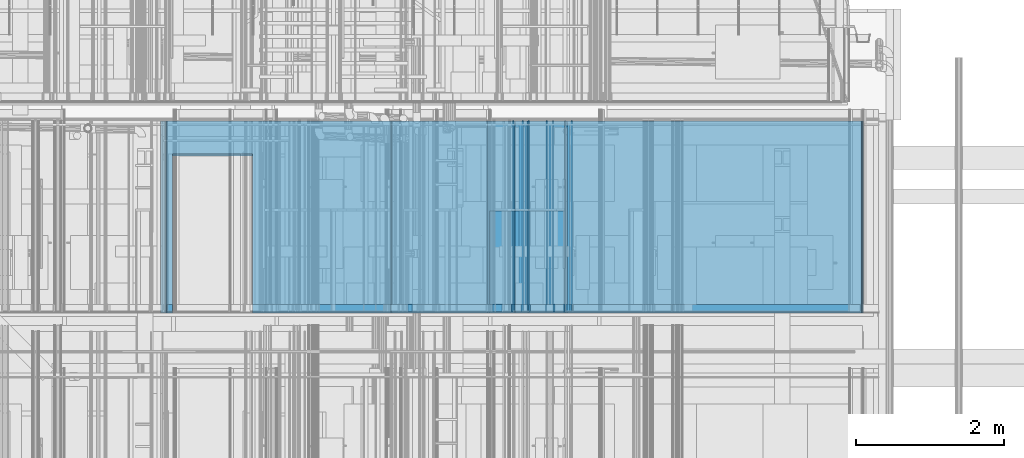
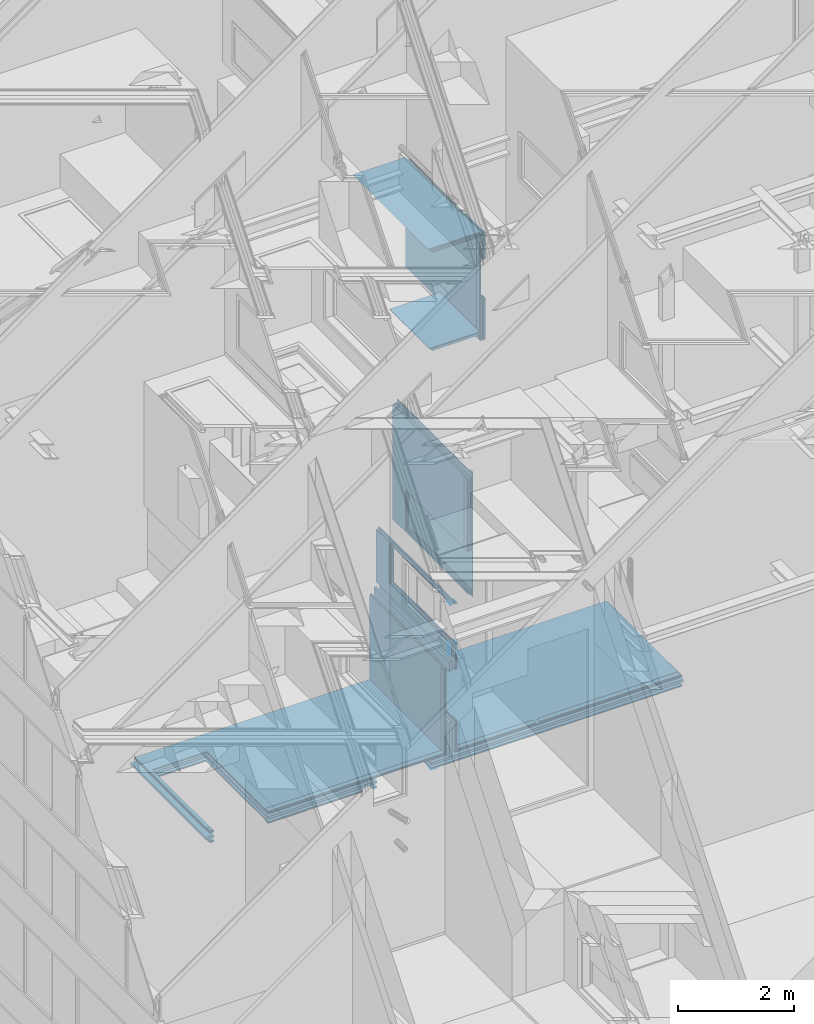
# One storey, part 122 of 583: 44 building element parts, 7 openings, 7 elements without a shape of their own.
"""IFC2X3 building model written with IfcOpenShell, lengths in metres."""

from ifc_helpers import new_model, entity, si_unit, converted_unit, derived_unit, money_unit, direction, frame, frame_2d, origin_with_axes, place, context, subcontext, project, spatial, polyline, rectangle, outline, extrude, material, type_object, element, aggregate, save


model = new_model("IFC2X3")

# Units and contexts
model_context = context("Model", 3, precision=1e-05, world=origin_with_axes(), true_north=direction((0.0, 1.0)))
body_context = subcontext(model_context, "Body", "Model", "MODEL_VIEW", scale=1.0)
ifc_project = project(units=[si_unit("LENGTHUNIT", "METRE"), si_unit("AREAUNIT", "SQUARE_METRE"), si_unit("VOLUMEUNIT", "CUBIC_METRE"), si_unit("ABSORBEDDOSEUNIT", "GRAY"), si_unit("AMOUNTOFSUBSTANCEUNIT", "MOLE"), si_unit("DOSEEQUIVALENTUNIT", "SIEVERT"), si_unit("ELECTRICCAPACITANCEUNIT", "FARAD"), si_unit("ELECTRICCHARGEUNIT", "COULOMB"), si_unit("ELECTRICCONDUCTANCEUNIT", "SIEMENS"), si_unit("ELECTRICCURRENTUNIT", "AMPERE"), si_unit("ELECTRICRESISTANCEUNIT", "OHM"), si_unit("ELECTRICVOLTAGEUNIT", "VOLT"), si_unit("ENERGYUNIT", "JOULE"), si_unit("FORCEUNIT", "NEWTON"), si_unit("FREQUENCYUNIT", "HERTZ"), si_unit("ILLUMINANCEUNIT", "LUX"), si_unit("INDUCTANCEUNIT", "HENRY"), si_unit("LUMINOUSFLUXUNIT", "LUMEN"), si_unit("LUMINOUSINTENSITYUNIT", "CANDELA"), si_unit("MAGNETICFLUXDENSITYUNIT", "TESLA"), si_unit("MAGNETICFLUXUNIT", "WEBER"), si_unit("MASSUNIT", "GRAM"), converted_unit("PLANEANGLEUNIT", "degree", entity("IfcReal", 0.0174532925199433), si_unit("PLANEANGLEUNIT", "RADIAN"), dimensions=[0, 0, 0, 0, 0, 0, 0]), si_unit("POWERUNIT", "WATT"), si_unit("PRESSUREUNIT", "PASCAL"), si_unit("RADIOACTIVITYUNIT", "BECQUEREL"), si_unit("SOLIDANGLEUNIT", "STERADIAN"), si_unit("THERMODYNAMICTEMPERATUREUNIT", "KELVIN"), si_unit("TIMEUNIT", "SECOND"), derived_unit("ACCELERATIONUNIT", [(si_unit("LENGTHUNIT", "METRE"), 1), (si_unit("TIMEUNIT", "SECOND"), -2)]), derived_unit("ANGULARVELOCITYUNIT", [(converted_unit("PLANEANGLEUNIT", "degree", entity("IfcReal", 0.0174532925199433), si_unit("PLANEANGLEUNIT", "RADIAN"), dimensions=[0, 0, 0, 0, 0, 0, 0]), 1), (si_unit("TIMEUNIT", "SECOND"), -1)]), derived_unit("CURVATUREUNIT", [(converted_unit("PLANEANGLEUNIT", "degree", entity("IfcReal", 0.0174532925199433), si_unit("PLANEANGLEUNIT", "RADIAN"), dimensions=[0, 0, 0, 0, 0, 0, 0]), 1), (si_unit("LENGTHUNIT", "METRE"), -1)]), derived_unit("DYNAMICVISCOSITYUNIT", [(si_unit("PRESSUREUNIT", "PASCAL"), 1), (si_unit("TIMEUNIT", "SECOND"), 1)]), derived_unit("HEATFLUXDENSITYUNIT", [(si_unit("POWERUNIT", "WATT"), 1), (si_unit("LENGTHUNIT", "METRE"), -2)]), derived_unit("HEATINGVALUEUNIT", [(si_unit("ENERGYUNIT", "JOULE"), 1), (si_unit("MASSUNIT", "GRAM"), -1)]), derived_unit("INTEGERCOUNTRATEUNIT", [(si_unit("TIMEUNIT", "SECOND"), -1)]), derived_unit("IONCONCENTRATIONUNIT", [(si_unit("MASSUNIT", "GRAM"), 1), (si_unit("VOLUMEUNIT", "CUBIC_METRE"), -1)]), derived_unit("ISOTHERMALMOISTURECAPACITYUNIT", [(si_unit("VOLUMEUNIT", "CUBIC_METRE"), 1), (si_unit("MASSUNIT", "GRAM"), -1)]), derived_unit("KINEMATICVISCOSITYUNIT", [(si_unit("AREAUNIT", "SQUARE_METRE"), 1), (si_unit("TIMEUNIT", "SECOND"), -1)]), derived_unit("LINEARFORCEUNIT", [(si_unit("FORCEUNIT", "NEWTON"), 1), (si_unit("LENGTHUNIT", "METRE"), -1)]), derived_unit("LINEARMOMENTUNIT", [(si_unit("FORCEUNIT", "NEWTON"), 1), (si_unit("LENGTHUNIT", "METRE"), -1)]), derived_unit("LINEARSTIFFNESSUNIT", [(si_unit("FORCEUNIT", "NEWTON"), 1), (si_unit("LENGTHUNIT", "METRE"), -1)]), derived_unit("LINEARVELOCITYUNIT", [(si_unit("LENGTHUNIT", "METRE"), 1), (si_unit("TIMEUNIT", "SECOND"), -1)]), derived_unit("LUMINOUSINTENSITYDISTRIBUTIONUNIT", [(si_unit("LUMINOUSINTENSITYUNIT", "CANDELA"), 1), (si_unit("LUMINOUSFLUXUNIT", "LUMEN"), -1)]), derived_unit("MASSDENSITYUNIT", [(si_unit("MASSUNIT", "GRAM"), 1), (si_unit("VOLUMEUNIT", "CUBIC_METRE"), -1)]), derived_unit("MASSFLOWRATEUNIT", [(si_unit("MASSUNIT", "GRAM"), 1), (si_unit("TIMEUNIT", "SECOND"), -1)]), derived_unit("MASSPERLENGTHUNIT", [(si_unit("MASSUNIT", "GRAM"), 1), (si_unit("LENGTHUNIT", "METRE"), -1)]), derived_unit("MODULUSOFELASTICITYUNIT", [(si_unit("FORCEUNIT", "NEWTON"), 1), (si_unit("AREAUNIT", "SQUARE_METRE"), -1)]), derived_unit("MODULUSOFLINEARSUBGRADEREACTIONUNIT", [(si_unit("FORCEUNIT", "NEWTON"), 1), (si_unit("LENGTHUNIT", "METRE"), -2)]), derived_unit("MODULUSOFROTATIONALSUBGRADEREACTIONUNIT", [(si_unit("FORCEUNIT", "NEWTON"), 1), (si_unit("LENGTHUNIT", "METRE"), 1)]), derived_unit("MODULUSOFSUBGRADEREACTIONUNIT", [(si_unit("FORCEUNIT", "NEWTON"), 1), (si_unit("VOLUMEUNIT", "CUBIC_METRE"), -1)]), derived_unit("MOISTUREDIFFUSIVITYUNIT", [(si_unit("VOLUMEUNIT", "CUBIC_METRE"), 1), (si_unit("TIMEUNIT", "SECOND"), -1)]), derived_unit("MOLECULARWEIGHTUNIT", [(si_unit("MASSUNIT", "GRAM"), 1), (si_unit("AMOUNTOFSUBSTANCEUNIT", "MOLE"), -1)]), derived_unit("PLANARFORCEUNIT", [(si_unit("FORCEUNIT", "NEWTON"), 1), (si_unit("LENGTHUNIT", "METRE"), -2)]), derived_unit("ROTATIONALFREQUENCYUNIT", [(si_unit("TIMEUNIT", "SECOND"), -1)]), derived_unit("ROTATIONALMASSUNIT", [(si_unit("MASSUNIT", "GRAM"), 1), (si_unit("LENGTHUNIT", "METRE"), 2)]), derived_unit("ROTATIONALSTIFFNESSUNIT", [(si_unit("FORCEUNIT", "NEWTON"), 1), (si_unit("LENGTHUNIT", "METRE"), 1), (converted_unit("PLANEANGLEUNIT", "degree", entity("IfcReal", 0.0174532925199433), si_unit("PLANEANGLEUNIT", "RADIAN"), dimensions=[0, 0, 0, 0, 0, 0, 0]), -1)]), derived_unit("SECTIONAREAINTEGRALUNIT", [(si_unit("LENGTHUNIT", "METRE"), 5)]), derived_unit("SECTIONMODULUSUNIT", [(si_unit("LENGTHUNIT", "METRE"), 3)]), derived_unit("SHEARMODULUSUNIT", [(si_unit("FORCEUNIT", "NEWTON"), 1), (si_unit("AREAUNIT", "SQUARE_METRE"), -1)]), derived_unit("SOUNDPOWERUNIT", [(si_unit("ENERGYUNIT", "JOULE"), 1), (si_unit("TIMEUNIT", "SECOND"), -1)]), derived_unit("SPECIFICHEATCAPACITYUNIT", [(si_unit("FORCEUNIT", "NEWTON"), 1), (si_unit("MASSUNIT", "GRAM"), -1), (si_unit("THERMODYNAMICTEMPERATUREUNIT", "KELVIN"), -1)]), derived_unit("TEMPERATUREGRADIENTUNIT", [(si_unit("THERMODYNAMICTEMPERATUREUNIT", "KELVIN"), 1), (si_unit("LENGTHUNIT", "METRE"), -1)]), derived_unit("THERMALADMITTANCEUNIT", [(si_unit("POWERUNIT", "WATT"), 1), (si_unit("AREAUNIT", "SQUARE_METRE"), -1), (si_unit("THERMODYNAMICTEMPERATUREUNIT", "KELVIN"), -1)]), derived_unit("THERMALCONDUCTANCEUNIT", [(si_unit("POWERUNIT", "WATT"), 1), (si_unit("LENGTHUNIT", "METRE"), -1), (si_unit("THERMODYNAMICTEMPERATUREUNIT", "KELVIN"), -1)]), derived_unit("THERMALEXPANSIONCOEFFICIENTUNIT", [(si_unit("THERMODYNAMICTEMPERATUREUNIT", "KELVIN"), -1)]), derived_unit("THERMALRESISTANCEUNIT", [(si_unit("AREAUNIT", "SQUARE_METRE"), 1), (si_unit("POWERUNIT", "WATT"), -1)]), derived_unit("THERMALTRANSMITTANCEUNIT", [(si_unit("POWERUNIT", "WATT"), 1), (si_unit("AREAUNIT", "SQUARE_METRE"), -1), (si_unit("THERMODYNAMICTEMPERATUREUNIT", "KELVIN"), -1)]), derived_unit("TORQUEUNIT", [(si_unit("FORCEUNIT", "NEWTON"), 1), (si_unit("LENGTHUNIT", "METRE"), 1)]), derived_unit("VAPORPERMEABILITYUNIT", [(si_unit("MASSUNIT", "GRAM"), 1), (si_unit("TIMEUNIT", "SECOND"), -1)]), derived_unit("VOLUMETRICFLOWRATEUNIT", [(si_unit("VOLUMEUNIT", "CUBIC_METRE"), 1), (si_unit("TIMEUNIT", "SECOND"), -1)]), derived_unit("WARPINGCONSTANTUNIT", [(si_unit("LENGTHUNIT", "METRE"), 6)]), derived_unit("WARPINGMOMENTUNIT", [(si_unit("FORCEUNIT", "NEWTON"), 1), (si_unit("LENGTHUNIT", "METRE"), 2)]), money_unit("GBP")], contexts=[model_context])

# Site, building, storey
site_placement = place(None, origin_with_axes())
site = spatial("IfcSite", under=ifc_project, at=site_placement, Name="Site", CompositionType="ELEMENT")
building_placement = place(site_placement, origin_with_axes())
building = spatial("IfcBuilding", under=site, at=building_placement, Name="Building01", CompositionType="ELEMENT")
storey_placement = place(building_placement, frame((0.0, 0.0, 20.78), z_axis=(0.0, 0.0, 1.0), x_axis=(1.0, 0.0, 0.0)))
storey = spatial("IfcBuildingStorey", under=building, at=storey_placement, Name="RL", CompositionType="ELEMENT", Elevation=20.78)

# Wall, opening, building element parts
wall_type_1 = type_object("IfcWallType", Name="SHE_A-Walls_Type05a_Partition_95mm_tall", PredefinedType="NOTDEFINED")
wall_1_placement = place(storey_placement, frame((10.355, 12.13, -10.326129), z_axis=(0.0, 1.0, 0.0), x_axis=(0.0, 0.0, 1.0)))
wall_1 = element("IfcWall", 1, at=wall_1_placement, inside=storey, type_object=wall_type_1, Name="5A", ObjectType="SHE_A-Walls_Type05a_Partition_95mm_tall")
opening_1_placement = place(wall_1_placement, frame((0.086065, -0.035, 0.0), z_axis=(0.0, 0.0, 1.0), x_axis=(1.0, 0.0, 0.0)))
element("IfcOpeningElement", 2, at=opening_1_placement, cuts=wall_1, Name="Opening", ObjectType="Opening", context=body_context, shape_type="SweptSolid", body=[
    extrude(rectangle(XDim=2.142, YDim=0.834, at=frame_2d((0.417, 1.071), x_axis=(0.0, -1.0))), frame((0.0, 0.09, 0.0), z_axis=(0.0, -1.0, 0.0), x_axis=(1.0, 0.0, 0.0)), (0.0, 0.0, 1.0), 0.18),
])
ifc_material_1 = material(Name="A_BSUK_Insulation")
placement_1 = place(wall_1_placement, origin_with_axes())
building_element_part_1 = element("IfcBuildingElementPart", 3, at=placement_1, material=ifc_material_1, Name="1", context=body_context, shape_type="SweptSolid", body=[
    extrude(rectangle(XDim=2.474714, YDim=0.025, at=frame_2d((1.237357, 0.0125), x_axis=(-1.0, 0.0))), origin_with_axes(), (0.0, 0.0, 1.0), 2.59),
])
ifc_material_2 = material(Name="A_BSUK_Walls_Timber")
building_element_part_2 = element("IfcBuildingElementPart", 4, at=placement_1, material=ifc_material_2, Name="2", context=body_context, shape_type="SweptSolid", body=[
    extrude(outline(polyline([(2.549714, 0.075), (-0.075, 0.075), (-0.06, 0.06), (2.534714, 0.06), (2.549714, 0.075)])), frame((0.0, 0.0, 0.015), z_axis=(0.0, 0.0, 1.0), x_axis=(1.0, 0.0, 0.0)), (0.0, 0.0, 1.0), 0.1),
])
building_element_part_3 = element("IfcBuildingElementPart", 5, at=placement_1, material=ifc_material_2, Name="3", context=body_context, shape_type="SweptSolid", body=[
    extrude(outline(polyline([(2.439714, -0.035), (0.035, -0.035), (0.05, -0.05), (2.424714, -0.05), (2.439714, -0.035)])), frame((0.0, 0.0, 0.015), z_axis=(0.0, 0.0, 1.0), x_axis=(1.0, 0.0, 0.0)), (0.0, 0.0, 1.0), 0.1),
])
ifc_material_3 = material(Name="A_BSUK_WallInternal_Finishes_Plasterboard")
building_element_part_4 = element("IfcBuildingElementPart", 6, at=placement_1, material=ifc_material_3, Name="4", context=body_context, shape_type="SweptSolid", body=[
    extrude(outline(polyline([(2.534714, 0.06), (-0.06, 0.06), (-0.048, 0.048), (2.522714, 0.048), (2.534714, 0.06)])), origin_with_axes(), (0.0, 0.0, 1.0), 2.59),
])
building_element_part_5 = element("IfcBuildingElementPart", 7, at=placement_1, material=ifc_material_3, Name="5", context=body_context, shape_type="SweptSolid", body=[
    extrude(outline(polyline([(2.451714, -0.023), (0.023, -0.023), (0.035, -0.035), (2.439714, -0.035), (2.451714, -0.023)])), origin_with_axes(), (0.0, 0.0, 1.0), 2.59),
])
aggregate(wall_1, [building_element_part_1, building_element_part_2, building_element_part_3, building_element_part_4, building_element_part_5])

# Wall, openings, building element parts
wall_type_2 = type_object("IfcWallType", Name="SHE_A-Walls_Type01c_Partywall_225mm_twin_tall", PredefinedType="NOTDEFINED")
wall_2_placement = place(storey_placement, frame((5.117, 12.13, -13.578331), z_axis=(0.0, 1.0, 0.0), x_axis=(1.0, 0.0, 0.0)))
wall_2 = element("IfcWall", 8, at=wall_2_placement, inside=storey, type_object=wall_type_2, Name="1C", ObjectType="SHE_A-Walls_Type01c_Partywall_225mm_twin_tall")
opening_2_placement = place(wall_2_placement, frame((0.157475, -0.225, -0.03), z_axis=(0.0, 0.0, 1.0), x_axis=(1.0, 0.0, 0.0)))
element("IfcOpeningElement", 9, at=opening_2_placement, cuts=wall_2, Name="Opening", ObjectType="Opening", context=body_context, shape_type="SweptSolid", body=[
    extrude(rectangle(XDim=1.084, YDim=2.142, at=frame_2d((-0.542, 1.071), x_axis=(-1.0, 0.0))), frame((0.0, -0.4125, 0.0), z_axis=(0.0, 1.0, 0.0), x_axis=(-1.0, 0.0, 0.0)), (0.0, 0.0, 1.0), 0.825),
])
opening_3_placement = place(wall_2_placement, frame((3.391704, 0.137, 0.0), z_axis=(0.0, 0.0, 1.0), x_axis=(1.0, 0.0, 0.0)))
element("IfcOpeningElement", 10, at=opening_3_placement, cuts=wall_2, Name="Opening", ObjectType="Opening", context=body_context, shape_type="SweptSolid", body=[
    extrude(rectangle(XDim=2.142, YDim=1.084, at=frame_2d((-0.542, 1.071), x_axis=(0.0, -1.0))), frame((0.0, -0.2055, 0.0), z_axis=(0.0, 1.0, 0.0), x_axis=(-1.0, 0.0, 0.0)), (0.0, 0.0, 1.0), 0.411),
])
opening_4_placement = place(wall_2_placement, frame((0.157475, 0.137, 0.0), z_axis=(0.0, 0.0, 1.0), x_axis=(1.0, 0.0, 0.0)))
element("IfcOpeningElement", 11, at=opening_4_placement, cuts=wall_2, Name="Opening", ObjectType="Opening", context=body_context, shape_type="SweptSolid", body=[
    extrude(rectangle(XDim=2.142, YDim=1.084, at=frame_2d((-0.542, 1.071), x_axis=(0.0, -1.0))), frame((0.0, -0.2055, 0.0), z_axis=(0.0, 1.0, 0.0), x_axis=(-1.0, 0.0, 0.0)), (0.0, 0.0, 1.0), 0.411),
])
placement_2 = place(wall_2_placement, origin_with_axes())
building_element_part_6 = element("IfcBuildingElementPart", 12, at=placement_2, material=ifc_material_1, Name="1", context=body_context, shape_type="SweptSolid", body=[
    extrude(rectangle(XDim=9.477, YDim=0.05, at=frame_2d((4.7385, 0.025), x_axis=(-1.0, 0.0))), origin_with_axes(), (0.0, 0.0, 1.0), 2.59),
])
building_element_part_7 = element("IfcBuildingElementPart", 13, at=placement_2, material=ifc_material_2, Name="2", context=body_context, shape_type="SweptSolid", body=[
    extrude(rectangle(XDim=1.906475, YDim=0.015, at=frame_2d((1.041238, 0.1445), x_axis=(-1.0, 0.0))), frame((0.0, 0.0, 0.015), z_axis=(0.0, 0.0, 1.0), x_axis=(1.0, 0.0, 0.0)), (0.0, 0.0, 1.0), 0.1),
])
building_element_part_8 = element("IfcBuildingElementPart", 14, at=placement_2, material=ifc_material_3, Name="3", context=body_context, shape_type="SweptSolid", body=[
    extrude(outline(polyline([(3.09367, 0.137), (0.088, 0.137), (0.088, 0.122), (3.10867, 0.122), (3.09367, 0.137)])), origin_with_axes(), (0.0, 0.0, 1.0), 2.59),
])
building_element_part_9 = element("IfcBuildingElementPart", 15, at=placement_2, material=ifc_material_3, Name="4", context=body_context, shape_type="SweptSolid", body=[
    extrude(outline(polyline([(3.10867, 0.122), (0.073, 0.122), (0.073, 0.107), (3.12367, 0.107), (3.10867, 0.122)])), origin_with_axes(), (0.0, 0.0, 1.0), 2.59),
])
building_element_part_10 = element("IfcBuildingElementPart", 16, at=placement_2, material=ifc_material_3, Name="5", context=body_context, shape_type="SweptSolid", body=[
    extrude(rectangle(XDim=4.702704, YDim=0.015, at=frame_2d((2.424352, -0.0655), x_axis=(-1.0, 0.0))), origin_with_axes(), (0.0, 0.0, 1.0), 2.59),
])
building_element_part_11 = element("IfcBuildingElementPart", 17, at=placement_2, material=ifc_material_3, Name="6", context=body_context, shape_type="SweptSolid", body=[
    extrude(rectangle(XDim=4.672704, YDim=0.015, at=frame_2d((2.424352, -0.0805), x_axis=(-1.0, 0.0))), origin_with_axes(), (0.0, 0.0, 1.0), 2.59),
])
building_element_part_12 = element("IfcBuildingElementPart", 18, at=placement_2, material=ifc_material_2, Name="7", context=body_context, shape_type="SweptSolid", body=[
    extrude(rectangle(XDim=4.657704, YDim=0.015, at=frame_2d((2.416852, -0.0955), x_axis=(-1.0, 0.0))), frame((0.0, 0.0, 0.015), z_axis=(0.0, 0.0, 1.0), x_axis=(1.0, 0.0, 0.0)), (0.0, 0.0, 1.0), 0.1),
])
building_element_part_13 = element("IfcBuildingElementPart", 19, at=placement_2, material=ifc_material_3, Name="8", context=body_context, shape_type="SweptSolid", body=[
    extrude(outline(polyline([(9.45, 0.137), (3.31867, 0.137), (3.30367, 0.122), (9.45, 0.122), (9.45, 0.137)])), origin_with_axes(), (0.0, 0.0, 1.0), 2.59),
])
building_element_part_14 = element("IfcBuildingElementPart", 20, at=placement_2, material=ifc_material_2, Name="9", context=body_context, shape_type="SweptSolid", body=[
    extrude(rectangle(XDim=1.27, YDim=0.015, at=frame_2d((3.96867, 0.1445), x_axis=(-1.0, 0.0))), frame((0.0, 0.0, 0.015), z_axis=(0.0, 0.0, 1.0), x_axis=(1.0, 0.0, 0.0)), (0.0, 0.0, 1.0), 0.1),
])
building_element_part_15 = element("IfcBuildingElementPart", 21, at=placement_2, material=ifc_material_3, Name="10", context=body_context, shape_type="SweptSolid", body=[
    extrude(outline(polyline([(9.465, 0.122), (3.30367, 0.122), (3.28867, 0.107), (9.465, 0.107), (9.465, 0.122)])), origin_with_axes(), (0.0, 0.0, 1.0), 2.59),
])
building_element_part_16 = element("IfcBuildingElementPart", 22, at=placement_2, material=ifc_material_2, Name="11", context=body_context, shape_type="SweptSolid", body=[
    extrude(rectangle(XDim=1.56542, YDim=0.015, at=frame_2d((5.768414, -0.0955), x_axis=(-1.0, 0.0))), frame((0.0, 0.0, 0.015), z_axis=(0.0, 0.0, 1.0), x_axis=(1.0, 0.0, 0.0)), (0.0, 0.0, 1.0), 0.1),
])
building_element_part_17 = element("IfcBuildingElementPart", 23, at=placement_2, material=ifc_material_3, Name="12", context=body_context, shape_type="SweptSolid", body=[
    extrude(rectangle(XDim=0.015, YDim=4.479296, at=frame_2d((7.210352, -0.0805), x_axis=(0.0, -1.0))), origin_with_axes(), (0.0, 0.0, 1.0), 2.59),
])
building_element_part_18 = element("IfcBuildingElementPart", 24, at=placement_2, material=ifc_material_3, Name="13", context=body_context, shape_type="SweptSolid", body=[
    extrude(rectangle(XDim=0.015, YDim=4.509296, at=frame_2d((7.210352, -0.0655), x_axis=(0.0, -1.0))), origin_with_axes(), (0.0, 0.0, 1.0), 2.59),
])
building_element_part_19 = element("IfcBuildingElementPart", 25, at=placement_2, material=ifc_material_2, Name="14", context=body_context, shape_type="SweptSolid", body=[
    extrude(rectangle(XDim=2.44133, YDim=0.015, at=frame_2d((8.214335, 0.1445), x_axis=(-1.0, 0.0))), frame((0.0, 0.0, 0.015), z_axis=(0.0, 0.0, 1.0), x_axis=(1.0, 0.0, 0.0)), (0.0, 0.0, 1.0), 0.1),
])
building_element_part_20 = element("IfcBuildingElementPart", 26, at=placement_2, material=ifc_material_2, Name="15", context=body_context, shape_type="SweptSolid", body=[
    extrude(rectangle(XDim=2.17, YDim=0.015, at=frame_2d((5.81367, 0.1445), x_axis=(-1.0, 0.0))), frame((0.0, 0.0, 0.015), z_axis=(0.0, 0.0, 1.0), x_axis=(1.0, 0.0, 0.0)), (0.0, 0.0, 1.0), 0.1),
])
building_element_part_21 = element("IfcBuildingElementPart", 27, at=placement_2, material=ifc_material_2, Name="16", context=body_context, shape_type="SweptSolid", body=[
    extrude(rectangle(XDim=1.004195, YDim=0.015, at=frame_2d((2.591572, 0.1445), x_axis=(-1.0, 0.0))), frame((0.0, 0.0, 0.015), z_axis=(0.0, 0.0, 1.0), x_axis=(1.0, 0.0, 0.0)), (0.0, 0.0, 1.0), 0.1),
])
building_element_part_22 = element("IfcBuildingElementPart", 28, at=placement_2, material=ifc_material_2, Name="17", context=body_context, shape_type="SweptSolid", body=[
    extrude(rectangle(XDim=0.015, YDim=2.788876, at=frame_2d((8.040562, -0.0955), x_axis=(0.0, -1.0))), frame((0.0, 0.0, 0.015), z_axis=(0.0, 0.0, 1.0), x_axis=(1.0, 0.0, 0.0)), (0.0, 0.0, 1.0), 0.1),
])
aggregate(wall_2, [building_element_part_6, building_element_part_7, building_element_part_8, building_element_part_9, building_element_part_10, building_element_part_11, building_element_part_12, building_element_part_13, building_element_part_14, building_element_part_15, building_element_part_16, building_element_part_17, building_element_part_18, building_element_part_19, building_element_part_20, building_element_part_21, building_element_part_22])

# Wall, opening, building element parts
wall_3_placement = place(storey_placement, frame((9.949704, 12.13, -11.583), z_axis=(0.0, 1.0, 0.0), x_axis=(0.0, 0.0, -1.0)))
wall_3 = element("IfcWall", 29, at=wall_3_placement, inside=storey, type_object=wall_type_2, Name="1C", ObjectType="SHE_A-Walls_Type01c_Partywall_225mm_twin_tall")
opening_5_placement = place(wall_3_placement, frame((0.200331, -0.138, 0.0), z_axis=(0.0, 0.0, 1.0), x_axis=(1.0, 0.0, 0.0)))
element("IfcOpeningElement", 30, at=opening_5_placement, cuts=wall_3, Name="Opening", ObjectType="Opening", context=body_context, shape_type="SweptSolid", body=[
    extrude(rectangle(XDim=2.142, YDim=1.084, at=frame_2d((0.542, 1.071), x_axis=(0.0, -1.0))), frame((0.0, 0.207, 0.0), z_axis=(0.0, -1.0, 0.0), x_axis=(1.0, 0.0, 0.0)), (0.0, 0.0, 1.0), 0.414),
])
placement_3 = place(wall_3_placement, origin_with_axes())
building_element_part_23 = element("IfcBuildingElementPart", 31, at=placement_3, material=ifc_material_1, Name="1", context=body_context, shape_type="SweptSolid", body=[
    extrude(rectangle(XDim=1.995331, YDim=0.05, at=frame_2d((0.997666, -0.025), x_axis=(-1.0, 0.0))), origin_with_axes(), (0.0, 0.0, 1.0), 2.59),
])
building_element_part_24 = element("IfcBuildingElementPart", 32, at=placement_3, material=ifc_material_2, Name="2", context=body_context, shape_type="SweptSolid", body=[
    extrude(outline(polyline([(1.892331, 0.102), (0.152, 0.102), (0.137, 0.087), (1.892331, 0.087), (1.892331, 0.102)])), frame((0.0, 0.0, 0.015), z_axis=(0.0, 0.0, 1.0), x_axis=(1.0, 0.0, 0.0)), (0.0, 0.0, 1.0), 0.1),
])
building_element_part_25 = element("IfcBuildingElementPart", 33, at=placement_3, material=ifc_material_3, Name="3", context=body_context, shape_type="SweptSolid", body=[
    extrude(outline(polyline([(1.907331, 0.087), (0.137, 0.087), (0.122, 0.072), (1.907331, 0.072), (1.907331, 0.087)])), origin_with_axes(), (0.0, 0.0, 1.0), 2.59),
])
building_element_part_26 = element("IfcBuildingElementPart", 34, at=placement_3, material=ifc_material_3, Name="4", context=body_context, shape_type="SweptSolid", body=[
    extrude(outline(polyline([(1.922331, 0.072), (0.122, 0.072), (0.107, 0.057), (1.922331, 0.057), (1.922331, 0.072)])), origin_with_axes(), (0.0, 0.0, 1.0), 2.59),
])
building_element_part_27 = element("IfcBuildingElementPart", 35, at=placement_3, material=ifc_material_3, Name="5", context=body_context, shape_type="SweptSolid", body=[
    extrude(rectangle(XDim=2.010331, YDim=0.015, at=frame_2d((0.932166, -0.1155), x_axis=(-1.0, 0.0))), origin_with_axes(), (0.0, 0.0, 1.0), 2.59),
])
building_element_part_28 = element("IfcBuildingElementPart", 36, at=placement_3, material=ifc_material_3, Name="6", context=body_context, shape_type="SweptSolid", body=[
    extrude(rectangle(XDim=2.010331, YDim=0.015, at=frame_2d((0.917166, -0.1305), x_axis=(-1.0, 0.0))), origin_with_axes(), (0.0, 0.0, 1.0), 2.59),
])
building_element_part_29 = element("IfcBuildingElementPart", 37, at=placement_3, material=ifc_material_2, Name="7", context=body_context, shape_type="SweptSolid", body=[
    extrude(outline(polyline([(1.907331, -0.138), (-0.088, -0.138), (-0.103, -0.153), (1.907331, -0.153), (1.907331, -0.138)])), frame((0.0, 0.0, 0.015), z_axis=(0.0, 0.0, 1.0), x_axis=(1.0, 0.0, 0.0)), (0.0, 0.0, 1.0), 0.1),
])
aggregate(wall_3, [building_element_part_23, building_element_part_24, building_element_part_25, building_element_part_26, building_element_part_27, building_element_part_28, building_element_part_29])

wall_4_placement = place(storey_placement, frame((10.052704, 12.13, -10.351129), z_axis=(0.0, 1.0, 0.0), x_axis=(0.0, 0.0, -1.0)))
wall_4 = element("IfcWall", 38, at=wall_4_placement, inside=storey, type_object=wall_type_1, Name="5A", ObjectType="SHE_A-Walls_Type05a_Partition_95mm_tall")
opening_6_placement = place(wall_4_placement, frame((0.062, -0.035, 0.0), z_axis=(0.0, 0.0, 1.0), x_axis=(1.0, 0.0, 0.0)))
element("IfcOpeningElement", 39, at=opening_6_placement, cuts=wall_4, Name="Opening", ObjectType="Opening", context=body_context, shape_type="SweptSolid", body=[
    extrude(rectangle(XDim=2.142, YDim=0.834, at=frame_2d((0.417, 1.071), x_axis=(0.0, -1.0))), frame((0.0, 3.115184, 0.0), z_axis=(0.0, -1.0, 0.0), x_axis=(1.0, 0.0, 0.0)), (0.0, 0.0, 1.0), 6.230368),
])
placement_4 = place(wall_4_placement, origin_with_axes())
building_element_part_30 = element("IfcBuildingElementPart", 40, at=placement_4, material=ifc_material_1, Name="1", context=body_context, shape_type="SweptSolid", body=[
    extrude(rectangle(XDim=1.143871, YDim=0.025, at=frame_2d((0.571935, 0.0125), x_axis=(-1.0, 0.0))), origin_with_axes(), (0.0, 0.0, 1.0), 2.59),
])
building_element_part_31 = element("IfcBuildingElementPart", 41, at=placement_4, material=ifc_material_2, Name="2", context=body_context, shape_type="SweptSolid", body=[
    extrude(rectangle(XDim=1.093871, YDim=0.015, at=frame_2d((0.581935, 0.0675), x_axis=(-1.0, 0.0))), frame((0.0, 0.0, 0.015), z_axis=(0.0, 0.0, 1.0), x_axis=(1.0, 0.0, 0.0)), (0.0, 0.0, 1.0), 0.1),
])
building_element_part_32 = element("IfcBuildingElementPart", 42, at=placement_4, material=ifc_material_2, Name="3", context=body_context, shape_type="SweptSolid", body=[
    extrude(rectangle(XDim=0.015, YDim=1.093871, at=frame_2d((0.596935, -0.0425), x_axis=(0.0, -1.0))), frame((0.0, 0.0, 0.015), z_axis=(0.0, 0.0, 1.0), x_axis=(1.0, 0.0, 0.0)), (0.0, 0.0, 1.0), 0.1),
])
building_element_part_33 = element("IfcBuildingElementPart", 43, at=placement_4, material=ifc_material_3, Name="4", context=body_context, shape_type="SweptSolid", body=[
    extrude(rectangle(XDim=1.108871, YDim=0.012, at=frame_2d((0.589435, 0.054), x_axis=(-1.0, 0.0))), origin_with_axes(), (0.0, 0.0, 1.0), 2.59),
])
building_element_part_34 = element("IfcBuildingElementPart", 44, at=placement_4, material=ifc_material_3, Name="5", context=body_context, shape_type="SweptSolid", body=[
    extrude(rectangle(XDim=1.108871, YDim=0.012, at=frame_2d((0.589435, -0.029), x_axis=(-1.0, 0.0))), origin_with_axes(), (0.0, 0.0, 1.0), 2.59),
])
aggregate(wall_4, [building_element_part_30, building_element_part_31, building_element_part_32, building_element_part_33, building_element_part_34])

# Wall, building element parts
wall_type_3 = type_object("IfcWallType", Name="SHE_A-Walls_Type05c_PreWallShell_65mm", PredefinedType="NOTDEFINED")
wall_5_placement = place(storey_placement, frame((9.605, 12.13, -4.936868), z_axis=(0.0, 1.0, 0.0), x_axis=(1.0, 0.0, 0.0)))
wall_5 = element("IfcWall", 45, at=wall_5_placement, inside=storey, type_object=wall_type_3, Name="5C", ObjectType="SHE_A-Walls_Type05c_PreWallShell_65mm")
ifc_material_4 = material(Name="A_BSUK_OpeningsClearance")
placement_5 = place(wall_5_placement, origin_with_axes())
building_element_part_35 = element("IfcBuildingElementPart", 46, at=placement_5, material=ifc_material_4, Name="1", context=body_context, shape_type="SweptSolid", body=[
    extrude(rectangle(XDim=0.965, YDim=0.05, at=frame_2d((0.4825, -0.025), x_axis=(-1.0, 0.0))), origin_with_axes(), (0.0, 0.0, 1.0), 1.375),
])
building_element_part_36 = element("IfcBuildingElementPart", 47, at=placement_5, material=ifc_material_2, Name="2", context=body_context, shape_type="SweptSolid", body=[
    extrude(rectangle(XDim=1.0, YDim=0.015, at=frame_2d((0.45, -0.0575), x_axis=(-1.0, 0.0))), origin_with_axes(), (0.0, 0.0, 1.0), 1.375),
])
aggregate(wall_5, [building_element_part_35, building_element_part_36])

# Wall, opening, building element parts
wall_6_placement = place(storey_placement, frame((10.63, 12.13, -2.84), z_axis=(0.0, 1.0, 0.0), x_axis=(0.0, 0.0, -1.0)))
wall_6 = element("IfcWall", 48, at=wall_6_placement, inside=storey, type_object=wall_type_1, Name="5A", ObjectType="SHE_A-Walls_Type05a_Partition_95mm_tall")
opening_7_placement = place(wall_6_placement, frame((0.540552, -0.035, 0.0), z_axis=(0.0, 0.0, 1.0), x_axis=(1.0, 0.0, 0.0)))
element("IfcOpeningElement", 49, at=opening_7_placement, cuts=wall_6, Name="Opening", ObjectType="Opening", context=body_context, shape_type="SweptSolid", body=[
    extrude(rectangle(XDim=2.142, YDim=0.834, at=frame_2d((0.417, 1.071), x_axis=(0.0, -1.0))), frame((0.0, 0.09, 0.0), z_axis=(0.0, -1.0, 0.0), x_axis=(1.0, 0.0, 0.0)), (0.0, 0.0, 1.0), 0.18),
])
placement_6 = place(wall_6_placement, origin_with_axes())
building_element_part_37 = element("IfcBuildingElementPart", 50, at=placement_6, material=ifc_material_1, Name="1", context=body_context, shape_type="SweptSolid", body=[
    extrude(rectangle(XDim=2.231868, YDim=0.025, at=frame_2d((1.115934, 0.0125), x_axis=(-1.0, 0.0))), origin_with_axes(), (0.0, 0.0, 1.0), 2.59),
])
building_element_part_38 = element("IfcBuildingElementPart", 51, at=placement_6, material=ifc_material_2, Name="2", context=body_context, shape_type="SweptSolid", body=[
    extrude(rectangle(XDim=2.181868, YDim=0.015, at=frame_2d((1.125934, 0.0675), x_axis=(-1.0, 0.0))), frame((0.0, 0.0, 0.015), z_axis=(0.0, 0.0, 1.0), x_axis=(1.0, 0.0, 0.0)), (0.0, 0.0, 1.0), 0.1),
])
building_element_part_39 = element("IfcBuildingElementPart", 52, at=placement_6, material=ifc_material_2, Name="3", context=body_context, shape_type="SweptSolid", body=[
    extrude(rectangle(XDim=2.216868, YDim=0.015, at=frame_2d((1.108434, -0.0425), x_axis=(-1.0, 0.0))), frame((0.0, 0.0, 0.015), z_axis=(0.0, 0.0, 1.0), x_axis=(1.0, 0.0, 0.0)), (0.0, 0.0, 1.0), 0.1),
])
building_element_part_40 = element("IfcBuildingElementPart", 53, at=placement_6, material=ifc_material_3, Name="4", context=body_context, shape_type="SweptSolid", body=[
    extrude(rectangle(XDim=2.208868, YDim=0.012, at=frame_2d((1.127434, 0.054), x_axis=(-1.0, 0.0))), origin_with_axes(), (0.0, 0.0, 1.0), 2.59),
])
building_element_part_41 = element("IfcBuildingElementPart", 54, at=placement_6, material=ifc_material_3, Name="5", context=body_context, shape_type="SweptSolid", body=[
    extrude(rectangle(XDim=2.231868, YDim=0.012, at=frame_2d((1.115934, -0.029), x_axis=(-1.0, 0.0))), origin_with_axes(), (0.0, 0.0, 1.0), 2.59),
])
aggregate(wall_6, [building_element_part_37, building_element_part_38, building_element_part_39, building_element_part_40, building_element_part_41])

# Wall, building element parts
wall_7_placement = place(storey_placement, frame((9.585, 12.13, -2.84), z_axis=(0.0, 1.0, 0.0), x_axis=(1.0, 0.0, 0.0)))
wall_7 = element("IfcWall", 55, at=wall_7_placement, inside=storey, type_object=wall_type_1, Name="5A", ObjectType="SHE_A-Walls_Type05a_Partition_95mm_tall")
placement_7 = place(wall_7_placement, origin_with_axes())
building_element_part_42 = element("IfcBuildingElementPart", 56, at=placement_7, material=ifc_material_1, Name="1", context=body_context, shape_type="SweptSolid", body=[
    extrude(outline(polyline([(1.02, 0.0), (0.0, 0.0), (-0.025, -0.025), (1.02, -0.025), (1.02, 0.0)])), origin_with_axes(), (0.0, 0.0, 1.0), 2.59),
])
building_element_part_43 = element("IfcBuildingElementPart", 57, at=placement_7, material=ifc_material_3, Name="4", context=body_context, shape_type="SweptSolid", body=[
    extrude(outline(polyline([(0.985, 0.035), (0.035, 0.035), (0.023, 0.023), (0.985, 0.023), (0.985, 0.035)])), origin_with_axes(), (0.0, 0.0, 1.0), 2.59),
])
building_element_part_44 = element("IfcBuildingElementPart", 58, at=placement_7, material=ifc_material_3, Name="5", context=body_context, shape_type="SweptSolid", body=[
    extrude(outline(polyline([(0.985, -0.048), (-0.048, -0.048), (-0.06, -0.06), (0.985, -0.06), (0.985, -0.048)])), origin_with_axes(), (0.0, 0.0, 1.0), 2.59),
])
aggregate(wall_7, [building_element_part_42, building_element_part_43, building_element_part_44])

save(model, "model.ifc")
